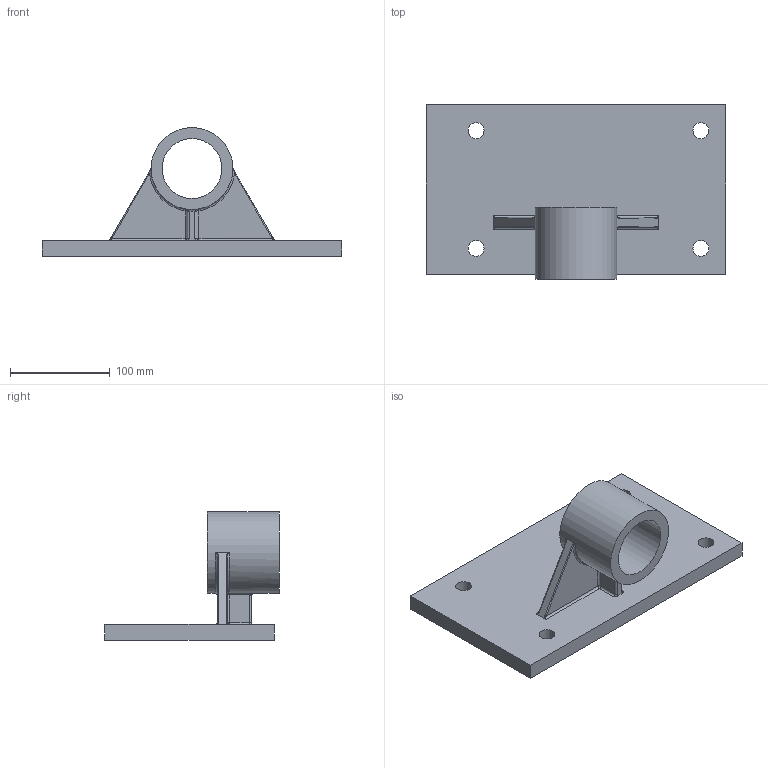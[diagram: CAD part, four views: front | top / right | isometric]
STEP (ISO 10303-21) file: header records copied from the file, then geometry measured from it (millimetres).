
FILE_DESCRIPTION((''),'2;1');
FILE_NAME('D:\PAWEŁ\ZLECENIA\DualSystem\001 Modele\DKAB80_\DK_80_STEP\AT_80.stp','2011-11-26T09:47:20',('Pawe'),(''),'Autodesk Inventor 2009','Autodesk Inventor 2009','');
FILE_SCHEMA(('AUTOMOTIVE_DESIGN { 1 0 10303 214 1 1 1 1 }'));
Length unit declared in the file: millimetre
Products named in the file (1): AT_80
Bounding box: 300 x 175 x 129 mm (x, y, z)
Volume: 1050313.5 mm3; surface area: 167138.3 mm2
Topology: 1 solids, 1 shells, 59 faces, 142 edges, 82 vertices
Faces by surface type: cylinder 21, bspline 20, plane 16, torus 2
Full cylindrical faces by diameter (mm): 16 x4, 60 x1, 82 x1
Entity records: 3096 total; most frequent: CARTESIAN_POINT 1808, ORIENTED_EDGE 262, DIRECTION 243, EDGE_CURVE 131, AXIS2_PLACEMENT_3D 98, VERTEX_POINT 82, EDGE_LOOP 77, FACE_OUTER_BOUND 59
